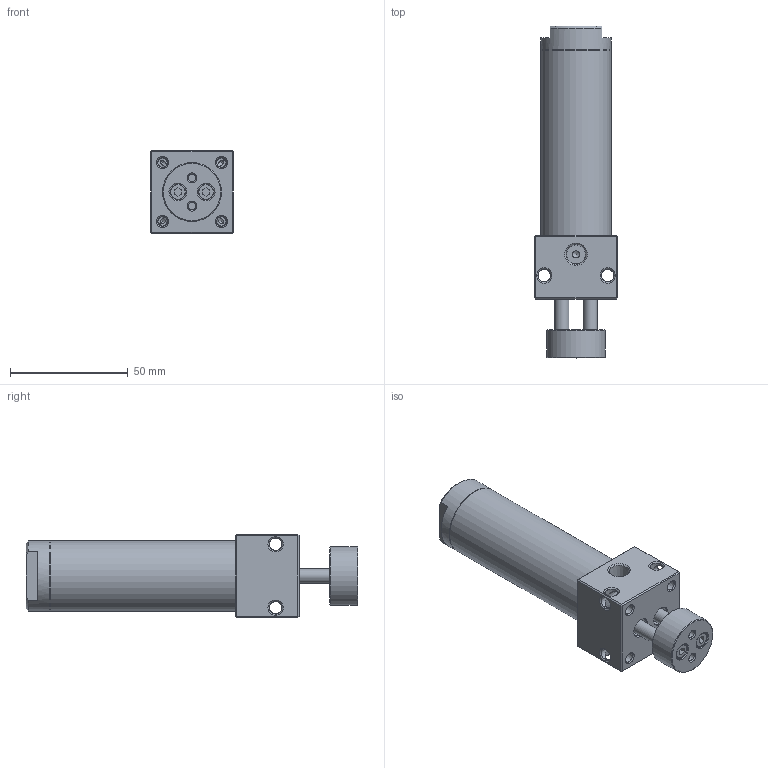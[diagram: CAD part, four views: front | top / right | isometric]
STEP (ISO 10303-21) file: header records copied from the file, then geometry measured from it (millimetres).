
FILE_DESCRIPTION((''),'2;1');
FILE_NAME('I:\3D電子目錄\氣缸\DBT\DBT\DBT25\DBT25x25.stp','2007-10-08T08:56:46',('Administrator'),(''),'Autodesk Inventor 2008','Autodesk Inventor 2008','');
FILE_SCHEMA(('AUTOMOTIVE_DESIGN { 1 0 10303 214 1 1 1 1 }'));
Length unit declared in the file: millimetre
Products named in the file (1): DBT25x25
Bounding box: 35 x 141 x 35 mm (x, y, z)
Volume: 64577.2 mm3; surface area: 33580.4 mm2
Topology: 1 solids, 5 shells, 172 faces, 396 edges, 239 vertices
Faces by surface type: plane 57, bspline 54, cone 38, cylinder 23
Full cylindrical faces by diameter (mm): 3 x1, 3.4 x1, 4 x1, 6 x3, 6.5 x1, 7 x1, 8 x1, 9 x1, 16 x1, 23.8 x2, 25 x2, 25.8 x2, 27 x2, 27.2 x2, 30 x2
Entity records: 5091 total; most frequent: CARTESIAN_POINT 1849, DIRECTION 622, ORIENTED_EDGE 548, EDGE_LOOP 308, EDGE_CURVE 274, AXIS2_PLACEMENT_3D 265, VERTEX_POINT 212, FACE_OUTER_BOUND 172
